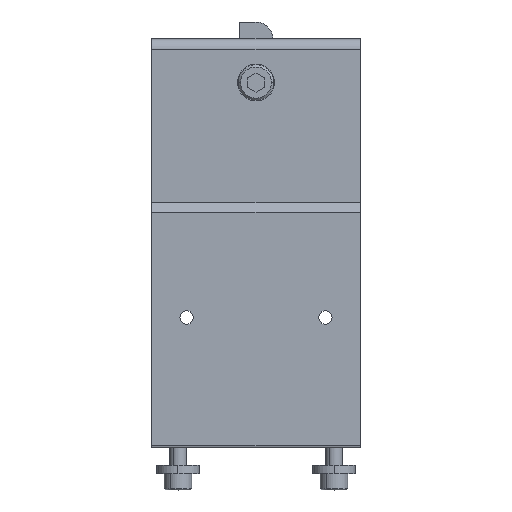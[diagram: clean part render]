
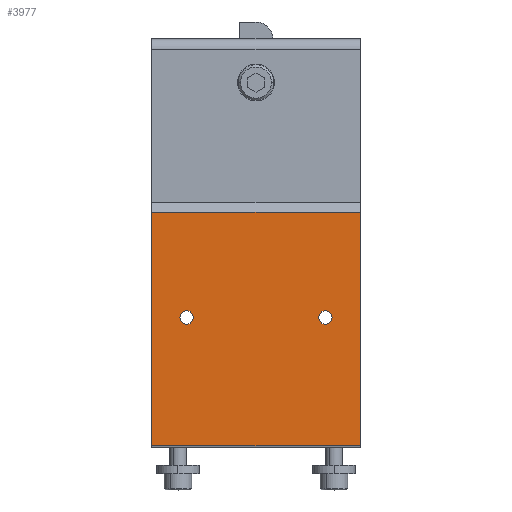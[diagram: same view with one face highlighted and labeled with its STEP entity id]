
A CAD part, top view. The second image highlights one B-rep face of the part: STEP entity #3977.
In plain terms, the highlighted planar face has unit normal (0, 0, 1) as drawn and (-1, 0, 0) by its records, which use the part's own axes.
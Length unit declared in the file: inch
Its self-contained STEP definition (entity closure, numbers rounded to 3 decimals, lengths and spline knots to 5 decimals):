
#2827=DIRECTION('',(0.,-1.,0.));
#2828=VECTOR('',#2827,3.3685);
#2829=CARTESIAN_POINT('',(0.,3.3985,1.5));
#2830=LINE('',#2829,#2828);
#2962=DIRECTION('',(0.,1.,0.));
#2963=VECTOR('',#2962,3.3685);
#2964=CARTESIAN_POINT('',(0.,0.03,-1.5));
#2965=LINE('',#2964,#2963);
#3099=DIRECTION('',(0.,0.,-1.));
#3100=VECTOR('',#3099,3.);
#3101=CARTESIAN_POINT('',(0.,0.03,1.5));
#3102=LINE('',#3101,#3100);
#3107=CARTESIAN_POINT('',(0.,1.881,1.));
#3108=DIRECTION('',(1.,0.,0.));
#3109=DIRECTION('',(0.,0.,1.));
#3110=AXIS2_PLACEMENT_3D('',#3107,#3108,#3109);
#3112=CARTESIAN_POINT('',(0.,1.881,1.));
#3113=DIRECTION('',(1.,0.,0.));
#3114=DIRECTION('',(0.,0.,-1.));
#3115=AXIS2_PLACEMENT_3D('',#3112,#3113,#3114);
#3117=CARTESIAN_POINT('',(0.,1.881,-1.));
#3118=DIRECTION('',(1.,0.,0.));
#3119=DIRECTION('',(0.,0.,1.));
#3120=AXIS2_PLACEMENT_3D('',#3117,#3118,#3119);
#3122=CARTESIAN_POINT('',(0.,1.881,-1.));
#3123=DIRECTION('',(1.,0.,0.));
#3124=DIRECTION('',(0.,0.,-1.));
#3125=AXIS2_PLACEMENT_3D('',#3122,#3123,#3124);
#3127=DIRECTION('',(0.,0.,1.));
#3128=VECTOR('',#3127,3.);
#3129=CARTESIAN_POINT('',(0.,3.3985,-1.5));
#3130=LINE('',#3129,#3128);
#3397=CARTESIAN_POINT('',(0.,1.881,-0.903));
#3398=CARTESIAN_POINT('',(0.,1.881,-1.097));
#3399=VERTEX_POINT('',#3397);
#3400=VERTEX_POINT('',#3398);
#3407=CARTESIAN_POINT('',(0.,3.3985,-1.5));
#3408=CARTESIAN_POINT('',(0.,3.3985,1.5));
#3409=VERTEX_POINT('',#3407);
#3410=VERTEX_POINT('',#3408);
#3415=CARTESIAN_POINT('',(0.,0.03,1.5));
#3416=VERTEX_POINT('',#3415);
#3445=CARTESIAN_POINT('',(0.,0.03,-1.5));
#3446=VERTEX_POINT('',#3445);
#3491=CARTESIAN_POINT('',(0.,1.881,1.097));
#3492=CARTESIAN_POINT('',(0.,1.881,0.903));
#3493=VERTEX_POINT('',#3491);
#3494=VERTEX_POINT('',#3492);
#3955=CARTESIAN_POINT('',(0.,5.8985,-1.5));
#3956=DIRECTION('',(-1.,0.,0.));
#3957=DIRECTION('',(0.,0.,1.));
#3958=AXIS2_PLACEMENT_3D('',#3955,#3956,#3957);
#3959=PLANE('',#3958);
#3960=ORIENTED_EDGE('',*,*,#3777,.T.);
#3962=ORIENTED_EDGE('',*,*,#3961,.T.);
#3963=ORIENTED_EDGE('',*,*,#3655,.T.);
#3964=ORIENTED_EDGE('',*,*,#3947,.T.);
#3965=EDGE_LOOP('',(#3960,#3962,#3963,#3964));
#3966=FACE_OUTER_BOUND('',#3965,.F.);
#3968=ORIENTED_EDGE('',*,*,#3967,.F.);
#3970=ORIENTED_EDGE('',*,*,#3969,.F.);
#3971=EDGE_LOOP('',(#3968,#3970));
#3972=FACE_BOUND('',#3971,.F.);
#3973=ORIENTED_EDGE('',*,*,#3579,.F.);
#3974=ORIENTED_EDGE('',*,*,#3562,.F.);
#3975=EDGE_LOOP('',(#3973,#3974));
#3976=FACE_BOUND('',#3975,.F.);
#3111=CIRCLE('',#3110,0.097);
#3116=CIRCLE('',#3115,0.097);
#3121=CIRCLE('',#3120,0.097);
#3126=CIRCLE('',#3125,0.097);
#3562=EDGE_CURVE('',#3400,#3399,#3126,.T.);
#3579=EDGE_CURVE('',#3399,#3400,#3121,.T.);
#3655=EDGE_CURVE('',#3410,#3416,#2830,.T.);
#3777=EDGE_CURVE('',#3446,#3409,#2965,.T.);
#3947=EDGE_CURVE('',#3416,#3446,#3102,.T.);
#3961=EDGE_CURVE('',#3409,#3410,#3130,.T.);
#3967=EDGE_CURVE('',#3493,#3494,#3111,.T.);
#3969=EDGE_CURVE('',#3494,#3493,#3116,.T.);
#3977=ADVANCED_FACE('',(#3966,#3972,#3976),#3959,.T.);
